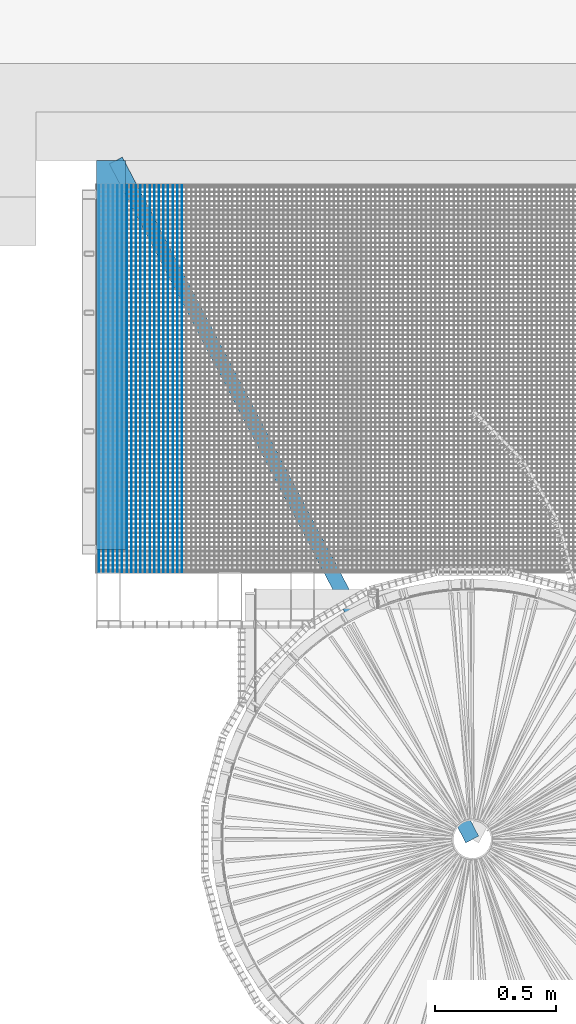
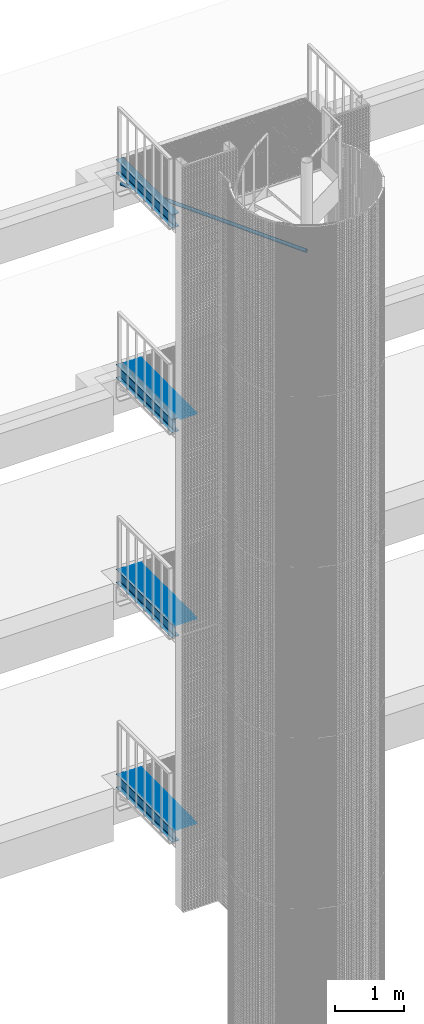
# One storey, part 91 of 1148: 58 beams, 8 elements without a shape of their own.
"""IFC2X3 building model written with IfcOpenShell, lengths in millimetres."""

from ifc_helpers import new_model, si_unit, frame, origin_with_axes, origin_2d_with_axis, place, context, subcontext, project, spatial, rectangle, hollow_circle, i_section, extrude, material, type_object, element, aggregate, save


model = new_model("IFC2X3")

# Units and contexts
model_context = context("Model", 3, precision=1e-05, world=origin_with_axes())
body_context = subcontext(model_context, "Body", "Model", "MODEL_VIEW")
ifc_project = project(units=[si_unit("LENGTHUNIT", "METRE", prefix="MILLI"), si_unit("AREAUNIT", "SQUARE_METRE"), si_unit("VOLUMEUNIT", "CUBIC_METRE"), si_unit("MASSUNIT", "GRAM", prefix="KILO"), si_unit("TIMEUNIT", "SECOND"), si_unit("PLANEANGLEUNIT", "RADIAN"), si_unit("SOLIDANGLEUNIT", "STERADIAN"), si_unit("THERMODYNAMICTEMPERATUREUNIT", "DEGREE_CELSIUS"), si_unit("LUMINOUSINTENSITYUNIT", "LUMEN")], contexts=[model_context])

# Site, building, storey
site_placement = place(None, origin_with_axes())
site = spatial("IfcSite", under=ifc_project, at=site_placement, Name="Undefined", CompositionType="ELEMENT")
building_placement = place(site_placement, origin_with_axes())
building = spatial("IfcBuilding", under=site, at=building_placement, Name="Undefined", CompositionType="ELEMENT")
storey_placement = place(building_placement, origin_with_axes())
storey = spatial("IfcBuildingStorey", under=building, at=storey_placement, Name="Undefined", CompositionType="ELEMENT", Elevation=0.0)

# Assembly, beams
assembly_1_placement = place(storey_placement, origin_with_axes())
assembly_1 = element("IfcElementAssembly", 1, at=assembly_1_placement, inside=storey, Name="BORDURE", AssemblyPlace="NOTDEFINED", PredefinedType="NOTDEFINED")
ifc_material_1 = material(Name="STEEL/S235JR")
beam_type_1 = type_object("IfcBeamType", Name="PL2*10", PredefinedType="NOTDEFINED")
beam_1_placement = place(assembly_1_placement, frame((20137.1154247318, 1101.99511814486, 13685.0), z_axis=(0.0, 0.0, 1.0), x_axis=(-4.50599999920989e-06, 0.999999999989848, 0.0)))
beam_1 = element("IfcBeam", 2, at=beam_1_placement, type_object=beam_type_1, material=ifc_material_1, Name="ENTRETOISE", context=body_context, shape_type="SweptSolid", body=[
    extrude(rectangle(XDim=2.0, YDim=10.0, at=origin_2d_with_axis()), frame((1596.0000000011, -1.35186458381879e-18, -7.27595761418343e-12), z_axis=(-1.0, 0.0, 0.0), x_axis=(0.0, -1.0, 0.0)), (0.0, 0.0, 1.0), 1596.0),
])
beam_2_placement = place(assembly_1_placement, frame((20156.1154247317, 1101.9952116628, 13685.0), z_axis=(0.0, 0.0, 1.0), x_axis=(-4.50599999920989e-06, 0.999999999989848, 0.0)))
beam_2 = element("IfcBeam", 3, at=beam_2_placement, type_object=beam_type_1, material=ifc_material_1, Name="ENTRETOISE", context=body_context, shape_type="SweptSolid", body=[
    extrude(rectangle(XDim=2.0, YDim=10.0, at=origin_2d_with_axis()), frame((1596.0000000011, -1.35186458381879e-18, -7.27595761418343e-12), z_axis=(-1.0, 0.0, 0.0), x_axis=(0.0, -1.0, 0.0)), (0.0, 0.0, 1.0), 1596.0),
])
beam_3_placement = place(assembly_1_placement, frame((20175.1154247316, 1101.99530518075, 13685.0), z_axis=(0.0, 0.0, 1.0), x_axis=(-4.50599999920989e-06, 0.999999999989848, 0.0)))
beam_3 = element("IfcBeam", 4, at=beam_3_placement, type_object=beam_type_1, material=ifc_material_1, Name="ENTRETOISE", context=body_context, shape_type="SweptSolid", body=[
    extrude(rectangle(XDim=2.0, YDim=10.0, at=origin_2d_with_axis()), frame((1596.0000000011, -1.35186458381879e-18, -7.27595761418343e-12), z_axis=(-1.0, 0.0, 0.0), x_axis=(0.0, -1.0, 0.0)), (0.0, 0.0, 1.0), 1596.0),
])
beam_4_placement = place(assembly_1_placement, frame((20194.1154247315, 1101.9953986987, 13685.0), z_axis=(0.0, 0.0, 1.0), x_axis=(-4.50599999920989e-06, 0.999999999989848, 0.0)))
beam_4 = element("IfcBeam", 5, at=beam_4_placement, type_object=beam_type_1, material=ifc_material_1, Name="ENTRETOISE", context=body_context, shape_type="SweptSolid", body=[
    extrude(rectangle(XDim=2.0, YDim=10.0, at=origin_2d_with_axis()), frame((1596.0000000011, -1.35186458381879e-18, -7.27595761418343e-12), z_axis=(-1.0, 0.0, 0.0), x_axis=(0.0, -1.0, 0.0)), (0.0, 0.0, 1.0), 1596.0),
])
beam_5_placement = place(assembly_1_placement, frame((20213.1154247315, 1101.99549221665, 13685.0), z_axis=(0.0, 0.0, 1.0), x_axis=(-4.50599999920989e-06, 0.999999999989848, 0.0)))
beam_5 = element("IfcBeam", 6, at=beam_5_placement, type_object=beam_type_1, material=ifc_material_1, Name="ENTRETOISE", context=body_context, shape_type="SweptSolid", body=[
    extrude(rectangle(XDim=2.0, YDim=10.0, at=origin_2d_with_axis()), frame((1596.0000000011, -1.35186458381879e-18, -7.27595761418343e-12), z_axis=(-1.0, 0.0, 0.0), x_axis=(0.0, -1.0, 0.0)), (0.0, 0.0, 1.0), 1596.0),
])
beam_6_placement = place(assembly_1_placement, frame((20232.1154247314, 1101.9955857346, 13685.0), z_axis=(0.0, 0.0, 1.0), x_axis=(-4.50599999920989e-06, 0.999999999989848, 0.0)))
beam_6 = element("IfcBeam", 7, at=beam_6_placement, type_object=beam_type_1, material=ifc_material_1, Name="ENTRETOISE", context=body_context, shape_type="SweptSolid", body=[
    extrude(rectangle(XDim=2.0, YDim=10.0, at=origin_2d_with_axis()), frame((1596.0000000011, -1.35186458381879e-18, -7.27595761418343e-12), z_axis=(-1.0, 0.0, 0.0), x_axis=(0.0, -1.0, 0.0)), (0.0, 0.0, 1.0), 1596.0),
])
beam_7_placement = place(assembly_1_placement, frame((20251.1154247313, 1101.99567925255, 13685.0), z_axis=(0.0, 0.0, 1.0), x_axis=(-4.50599999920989e-06, 0.999999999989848, 0.0)))
beam_7 = element("IfcBeam", 8, at=beam_7_placement, type_object=beam_type_1, material=ifc_material_1, Name="ENTRETOISE", context=body_context, shape_type="SweptSolid", body=[
    extrude(rectangle(XDim=2.0, YDim=10.0, at=origin_2d_with_axis()), frame((1596.0000000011, -1.35186458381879e-18, -7.27595761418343e-12), z_axis=(-1.0, 0.0, 0.0), x_axis=(0.0, -1.0, 0.0)), (0.0, 0.0, 1.0), 1596.0),
])
beam_8_placement = place(assembly_1_placement, frame((20270.1154247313, 1101.99577277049, 13685.0), z_axis=(0.0, 0.0, 1.0), x_axis=(-4.50599999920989e-06, 0.999999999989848, 0.0)))
beam_8 = element("IfcBeam", 9, at=beam_8_placement, type_object=beam_type_1, material=ifc_material_1, Name="ENTRETOISE", context=body_context, shape_type="SweptSolid", body=[
    extrude(rectangle(XDim=2.0, YDim=10.0, at=origin_2d_with_axis()), frame((1596.0000000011, -1.35186458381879e-18, -7.27595761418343e-12), z_axis=(-1.0, 0.0, 0.0), x_axis=(0.0, -1.0, 0.0)), (0.0, 0.0, 1.0), 1596.0),
])
beam_9_placement = place(assembly_1_placement, frame((20289.1154247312, 1101.99586628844, 13685.0), z_axis=(0.0, 0.0, 1.0), x_axis=(-4.50599999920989e-06, 0.999999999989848, 0.0)))
beam_9 = element("IfcBeam", 10, at=beam_9_placement, type_object=beam_type_1, material=ifc_material_1, Name="ENTRETOISE", context=body_context, shape_type="SweptSolid", body=[
    extrude(rectangle(XDim=2.0, YDim=10.0, at=origin_2d_with_axis()), frame((1596.0000000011, -1.35186458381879e-18, -7.27595761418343e-12), z_axis=(-1.0, 0.0, 0.0), x_axis=(0.0, -1.0, 0.0)), (0.0, 0.0, 1.0), 1596.0),
])
beam_10_placement = place(assembly_1_placement, frame((20308.1154247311, 1101.99595980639, 13685.0), z_axis=(0.0, 0.0, 1.0), x_axis=(-4.50599999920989e-06, 0.999999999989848, 0.0)))
beam_10 = element("IfcBeam", 11, at=beam_10_placement, type_object=beam_type_1, material=ifc_material_1, Name="ENTRETOISE", context=body_context, shape_type="SweptSolid", body=[
    extrude(rectangle(XDim=2.0, YDim=10.0, at=origin_2d_with_axis()), frame((1596.0000000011, -1.35186458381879e-18, -7.27595761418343e-12), z_axis=(-1.0, 0.0, 0.0), x_axis=(0.0, -1.0, 0.0)), (0.0, 0.0, 1.0), 1596.0),
])
beam_11_placement = place(assembly_1_placement, frame((20327.1154247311, 1101.99605332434, 13685.0), z_axis=(0.0, 0.0, 1.0), x_axis=(-4.50599999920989e-06, 0.999999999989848, 0.0)))
beam_11 = element("IfcBeam", 12, at=beam_11_placement, type_object=beam_type_1, material=ifc_material_1, Name="ENTRETOISE", context=body_context, shape_type="SweptSolid", body=[
    extrude(rectangle(XDim=2.0, YDim=10.0, at=origin_2d_with_axis()), frame((1596.0000000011, -1.35186458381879e-18, -7.27595761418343e-12), z_axis=(-1.0, 0.0, 0.0), x_axis=(0.0, -1.0, 0.0)), (0.0, 0.0, 1.0), 1596.0),
])
beam_12_placement = place(assembly_1_placement, frame((20346.115424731, 1101.99614684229, 13685.0), z_axis=(0.0, 0.0, 1.0), x_axis=(-4.50599999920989e-06, 0.999999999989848, 0.0)))
beam_12 = element("IfcBeam", 13, at=beam_12_placement, type_object=beam_type_1, material=ifc_material_1, Name="ENTRETOISE", context=body_context, shape_type="SweptSolid", body=[
    extrude(rectangle(XDim=2.0, YDim=10.0, at=origin_2d_with_axis()), frame((1596.0000000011, -1.35186458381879e-18, -7.27595761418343e-12), z_axis=(-1.0, 0.0, 0.0), x_axis=(0.0, -1.0, 0.0)), (0.0, 0.0, 1.0), 1596.0),
])
beam_13_placement = place(assembly_1_placement, frame((20365.1154247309, 1101.99624036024, 13685.0), z_axis=(0.0, 0.0, 1.0), x_axis=(-4.50599999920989e-06, 0.999999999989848, 0.0)))
beam_13 = element("IfcBeam", 14, at=beam_13_placement, type_object=beam_type_1, material=ifc_material_1, Name="ENTRETOISE", context=body_context, shape_type="SweptSolid", body=[
    extrude(rectangle(XDim=2.0, YDim=10.0, at=origin_2d_with_axis()), frame((1596.0000000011, -1.35186458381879e-18, -7.27595761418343e-12), z_axis=(-1.0, 0.0, 0.0), x_axis=(0.0, -1.0, 0.0)), (0.0, 0.0, 1.0), 1596.0),
])
beam_14_placement = place(assembly_1_placement, frame((20384.1154247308, 1101.99633387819, 13685.0), z_axis=(0.0, 0.0, 1.0), x_axis=(-4.50599999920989e-06, 0.999999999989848, 0.0)))
beam_14 = element("IfcBeam", 15, at=beam_14_placement, type_object=beam_type_1, material=ifc_material_1, Name="ENTRETOISE", context=body_context, shape_type="SweptSolid", body=[
    extrude(rectangle(XDim=2.0, YDim=10.0, at=origin_2d_with_axis()), frame((1596.0000000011, -1.35186458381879e-18, -7.27595761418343e-12), z_axis=(-1.0, 0.0, 0.0), x_axis=(0.0, -1.0, 0.0)), (0.0, 0.0, 1.0), 1596.0),
])
beam_15_placement = place(assembly_1_placement, frame((20403.1154247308, 1101.99642739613, 13685.0), z_axis=(0.0, 0.0, 1.0), x_axis=(-4.50599999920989e-06, 0.999999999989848, 0.0)))
beam_15 = element("IfcBeam", 16, at=beam_15_placement, type_object=beam_type_1, material=ifc_material_1, Name="ENTRETOISE", context=body_context, shape_type="SweptSolid", body=[
    extrude(rectangle(XDim=2.0, YDim=10.0, at=origin_2d_with_axis()), frame((1596.0000000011, -1.35186458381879e-18, -7.27595761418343e-12), z_axis=(-1.0, 0.0, 0.0), x_axis=(0.0, -1.0, 0.0)), (0.0, 0.0, 1.0), 1596.0),
])
aggregate(assembly_1, [beam_1, beam_2, beam_3, beam_4, beam_5, beam_6, beam_7, beam_8, beam_9, beam_10, beam_11, beam_12, beam_13, beam_14, beam_15])

assembly_2_placement = place(storey_placement, origin_with_axes())
assembly_2 = element("IfcElementAssembly", 17, at=assembly_2_placement, inside=storey, Name="BORDURE", AssemblyPlace="NOTDEFINED", PredefinedType="NOTDEFINED")
beam_16_placement = place(assembly_2_placement, frame((20061.115424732, 1101.99474407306, 10085.0), z_axis=(0.0, 0.0, 1.0), x_axis=(-4.50599999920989e-06, 0.999999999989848, 0.0)))
beam_16 = element("IfcBeam", 18, at=beam_16_placement, type_object=beam_type_1, material=ifc_material_1, Name="ENTRETOISE", context=body_context, shape_type="SweptSolid", body=[
    extrude(rectangle(XDim=2.0, YDim=10.0, at=origin_2d_with_axis()), frame((1596.0000000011, -1.35186458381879e-18, -7.27595761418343e-12), z_axis=(-1.0, 0.0, 0.0), x_axis=(0.0, -1.0, 0.0)), (0.0, 0.0, 1.0), 1596.0),
])
beam_17_placement = place(assembly_2_placement, frame((20080.115424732, 1101.99483759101, 10085.0), z_axis=(0.0, 0.0, 1.0), x_axis=(-4.50599999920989e-06, 0.999999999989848, 0.0)))
beam_17 = element("IfcBeam", 19, at=beam_17_placement, type_object=beam_type_1, material=ifc_material_1, Name="ENTRETOISE", context=body_context, shape_type="SweptSolid", body=[
    extrude(rectangle(XDim=2.0, YDim=10.0, at=origin_2d_with_axis()), frame((1596.0000000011, -1.35186458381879e-18, -7.27595761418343e-12), z_axis=(-1.0, 0.0, 0.0), x_axis=(0.0, -1.0, 0.0)), (0.0, 0.0, 1.0), 1596.0),
])
beam_18_placement = place(assembly_2_placement, frame((20099.1154247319, 1101.99493110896, 10085.0), z_axis=(0.0, 0.0, 1.0), x_axis=(-4.50599999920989e-06, 0.999999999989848, 0.0)))
beam_18 = element("IfcBeam", 20, at=beam_18_placement, type_object=beam_type_1, material=ifc_material_1, Name="ENTRETOISE", context=body_context, shape_type="SweptSolid", body=[
    extrude(rectangle(XDim=2.0, YDim=10.0, at=origin_2d_with_axis()), frame((1596.0000000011, -1.35186458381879e-18, -7.27595761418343e-12), z_axis=(-1.0, 0.0, 0.0), x_axis=(0.0, -1.0, 0.0)), (0.0, 0.0, 1.0), 1596.0),
])
beam_19_placement = place(assembly_2_placement, frame((20118.1154247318, 1101.99502462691, 10085.0), z_axis=(0.0, 0.0, 1.0), x_axis=(-4.50599999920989e-06, 0.999999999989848, 0.0)))
beam_19 = element("IfcBeam", 21, at=beam_19_placement, type_object=beam_type_1, material=ifc_material_1, Name="ENTRETOISE", context=body_context, shape_type="SweptSolid", body=[
    extrude(rectangle(XDim=2.0, YDim=10.0, at=origin_2d_with_axis()), frame((1596.0000000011, -1.35186458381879e-18, -7.27595761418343e-12), z_axis=(-1.0, 0.0, 0.0), x_axis=(0.0, -1.0, 0.0)), (0.0, 0.0, 1.0), 1596.0),
])
beam_20_placement = place(assembly_2_placement, frame((20137.1154247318, 1101.99511814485, 10085.0), z_axis=(0.0, 0.0, 1.0), x_axis=(-4.50599999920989e-06, 0.999999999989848, 0.0)))
beam_20 = element("IfcBeam", 22, at=beam_20_placement, type_object=beam_type_1, material=ifc_material_1, Name="ENTRETOISE", context=body_context, shape_type="SweptSolid", body=[
    extrude(rectangle(XDim=2.0, YDim=10.0, at=origin_2d_with_axis()), frame((1596.0000000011, -1.35186458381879e-18, -7.27595761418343e-12), z_axis=(-1.0, 0.0, 0.0), x_axis=(0.0, -1.0, 0.0)), (0.0, 0.0, 1.0), 1596.0),
])
beam_21_placement = place(assembly_2_placement, frame((20156.1154247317, 1101.9952116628, 10085.0), z_axis=(0.0, 0.0, 1.0), x_axis=(-4.50599999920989e-06, 0.999999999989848, 0.0)))
beam_21 = element("IfcBeam", 23, at=beam_21_placement, type_object=beam_type_1, material=ifc_material_1, Name="ENTRETOISE", context=body_context, shape_type="SweptSolid", body=[
    extrude(rectangle(XDim=2.0, YDim=10.0, at=origin_2d_with_axis()), frame((1596.0000000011, -1.35186458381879e-18, -7.27595761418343e-12), z_axis=(-1.0, 0.0, 0.0), x_axis=(0.0, -1.0, 0.0)), (0.0, 0.0, 1.0), 1596.0),
])
beam_22_placement = place(assembly_2_placement, frame((20175.1154247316, 1101.99530518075, 10085.0), z_axis=(0.0, 0.0, 1.0), x_axis=(-4.50599999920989e-06, 0.999999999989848, 0.0)))
beam_22 = element("IfcBeam", 24, at=beam_22_placement, type_object=beam_type_1, material=ifc_material_1, Name="ENTRETOISE", context=body_context, shape_type="SweptSolid", body=[
    extrude(rectangle(XDim=2.0, YDim=10.0, at=origin_2d_with_axis()), frame((1596.0000000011, -1.35186458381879e-18, -7.27595761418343e-12), z_axis=(-1.0, 0.0, 0.0), x_axis=(0.0, -1.0, 0.0)), (0.0, 0.0, 1.0), 1596.0),
])
beam_23_placement = place(assembly_2_placement, frame((20194.1154247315, 1101.9953986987, 10085.0), z_axis=(0.0, 0.0, 1.0), x_axis=(-4.50599999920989e-06, 0.999999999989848, 0.0)))
beam_23 = element("IfcBeam", 25, at=beam_23_placement, type_object=beam_type_1, material=ifc_material_1, Name="ENTRETOISE", context=body_context, shape_type="SweptSolid", body=[
    extrude(rectangle(XDim=2.0, YDim=10.0, at=origin_2d_with_axis()), frame((1596.0000000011, -1.35186458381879e-18, -7.27595761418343e-12), z_axis=(-1.0, 0.0, 0.0), x_axis=(0.0, -1.0, 0.0)), (0.0, 0.0, 1.0), 1596.0),
])
beam_24_placement = place(assembly_2_placement, frame((20213.1154247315, 1101.99549221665, 10085.0), z_axis=(0.0, 0.0, 1.0), x_axis=(-4.50599999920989e-06, 0.999999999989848, 0.0)))
beam_24 = element("IfcBeam", 26, at=beam_24_placement, type_object=beam_type_1, material=ifc_material_1, Name="ENTRETOISE", context=body_context, shape_type="SweptSolid", body=[
    extrude(rectangle(XDim=2.0, YDim=10.0, at=origin_2d_with_axis()), frame((1596.0000000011, -1.35186458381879e-18, -7.27595761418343e-12), z_axis=(-1.0, 0.0, 0.0), x_axis=(0.0, -1.0, 0.0)), (0.0, 0.0, 1.0), 1596.0),
])
beam_25_placement = place(assembly_2_placement, frame((20232.1154247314, 1101.9955857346, 10085.0), z_axis=(0.0, 0.0, 1.0), x_axis=(-4.50599999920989e-06, 0.999999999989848, 0.0)))
beam_25 = element("IfcBeam", 27, at=beam_25_placement, type_object=beam_type_1, material=ifc_material_1, Name="ENTRETOISE", context=body_context, shape_type="SweptSolid", body=[
    extrude(rectangle(XDim=2.0, YDim=10.0, at=origin_2d_with_axis()), frame((1596.0000000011, -1.35186458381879e-18, -7.27595761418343e-12), z_axis=(-1.0, 0.0, 0.0), x_axis=(0.0, -1.0, 0.0)), (0.0, 0.0, 1.0), 1596.0),
])
beam_26_placement = place(assembly_2_placement, frame((20251.1154247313, 1101.99567925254, 10085.0), z_axis=(0.0, 0.0, 1.0), x_axis=(-4.50599999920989e-06, 0.999999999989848, 0.0)))
beam_26 = element("IfcBeam", 28, at=beam_26_placement, type_object=beam_type_1, material=ifc_material_1, Name="ENTRETOISE", context=body_context, shape_type="SweptSolid", body=[
    extrude(rectangle(XDim=2.0, YDim=10.0, at=origin_2d_with_axis()), frame((1596.0000000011, -1.35186458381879e-18, -7.27595761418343e-12), z_axis=(-1.0, 0.0, 0.0), x_axis=(0.0, -1.0, 0.0)), (0.0, 0.0, 1.0), 1596.0),
])
beam_27_placement = place(assembly_2_placement, frame((20270.1154247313, 1101.99577277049, 10085.0), z_axis=(0.0, 0.0, 1.0), x_axis=(-4.50599999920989e-06, 0.999999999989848, 0.0)))
beam_27 = element("IfcBeam", 29, at=beam_27_placement, type_object=beam_type_1, material=ifc_material_1, Name="ENTRETOISE", context=body_context, shape_type="SweptSolid", body=[
    extrude(rectangle(XDim=2.0, YDim=10.0, at=origin_2d_with_axis()), frame((1596.0000000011, -1.35186458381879e-18, -7.27595761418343e-12), z_axis=(-1.0, 0.0, 0.0), x_axis=(0.0, -1.0, 0.0)), (0.0, 0.0, 1.0), 1596.0),
])
beam_28_placement = place(assembly_2_placement, frame((20289.1154247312, 1101.99586628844, 10085.0), z_axis=(0.0, 0.0, 1.0), x_axis=(-4.50599999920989e-06, 0.999999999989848, 0.0)))
beam_28 = element("IfcBeam", 30, at=beam_28_placement, type_object=beam_type_1, material=ifc_material_1, Name="ENTRETOISE", context=body_context, shape_type="SweptSolid", body=[
    extrude(rectangle(XDim=2.0, YDim=10.0, at=origin_2d_with_axis()), frame((1596.0000000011, -1.35186458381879e-18, -7.27595761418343e-12), z_axis=(-1.0, 0.0, 0.0), x_axis=(0.0, -1.0, 0.0)), (0.0, 0.0, 1.0), 1596.0),
])
beam_29_placement = place(assembly_2_placement, frame((20308.1154247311, 1101.99595980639, 10085.0), z_axis=(0.0, 0.0, 1.0), x_axis=(-4.50599999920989e-06, 0.999999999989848, 0.0)))
beam_29 = element("IfcBeam", 31, at=beam_29_placement, type_object=beam_type_1, material=ifc_material_1, Name="ENTRETOISE", context=body_context, shape_type="SweptSolid", body=[
    extrude(rectangle(XDim=2.0, YDim=10.0, at=origin_2d_with_axis()), frame((1596.0000000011, -1.35186458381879e-18, -7.27595761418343e-12), z_axis=(-1.0, 0.0, 0.0), x_axis=(0.0, -1.0, 0.0)), (0.0, 0.0, 1.0), 1596.0),
])
beam_30_placement = place(assembly_2_placement, frame((20327.115424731, 1101.99605332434, 10085.0), z_axis=(0.0, 0.0, 1.0), x_axis=(-4.50599999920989e-06, 0.999999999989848, 0.0)))
beam_30 = element("IfcBeam", 32, at=beam_30_placement, type_object=beam_type_1, material=ifc_material_1, Name="ENTRETOISE", context=body_context, shape_type="SweptSolid", body=[
    extrude(rectangle(XDim=2.0, YDim=10.0, at=origin_2d_with_axis()), frame((1596.0000000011, -1.35186458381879e-18, -7.27595761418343e-12), z_axis=(-1.0, 0.0, 0.0), x_axis=(0.0, -1.0, 0.0)), (0.0, 0.0, 1.0), 1596.0),
])
beam_31_placement = place(assembly_2_placement, frame((20346.115424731, 1101.99614684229, 10085.0), z_axis=(0.0, 0.0, 1.0), x_axis=(-4.50599999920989e-06, 0.999999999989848, 0.0)))
beam_31 = element("IfcBeam", 33, at=beam_31_placement, type_object=beam_type_1, material=ifc_material_1, Name="ENTRETOISE", context=body_context, shape_type="SweptSolid", body=[
    extrude(rectangle(XDim=2.0, YDim=10.0, at=origin_2d_with_axis()), frame((1596.0000000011, -1.35186458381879e-18, -7.27595761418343e-12), z_axis=(-1.0, 0.0, 0.0), x_axis=(0.0, -1.0, 0.0)), (0.0, 0.0, 1.0), 1596.0),
])
beam_32_placement = place(assembly_2_placement, frame((20365.1154247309, 1101.99624036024, 10085.0), z_axis=(0.0, 0.0, 1.0), x_axis=(-4.50599999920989e-06, 0.999999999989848, 0.0)))
beam_32 = element("IfcBeam", 34, at=beam_32_placement, type_object=beam_type_1, material=ifc_material_1, Name="ENTRETOISE", context=body_context, shape_type="SweptSolid", body=[
    extrude(rectangle(XDim=2.0, YDim=10.0, at=origin_2d_with_axis()), frame((1596.0000000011, -1.35186458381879e-18, -7.27595761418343e-12), z_axis=(-1.0, 0.0, 0.0), x_axis=(0.0, -1.0, 0.0)), (0.0, 0.0, 1.0), 1596.0),
])
beam_33_placement = place(assembly_2_placement, frame((20384.1154247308, 1101.99633387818, 10085.0), z_axis=(0.0, 0.0, 1.0), x_axis=(-4.50599999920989e-06, 0.999999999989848, 0.0)))
beam_33 = element("IfcBeam", 35, at=beam_33_placement, type_object=beam_type_1, material=ifc_material_1, Name="ENTRETOISE", context=body_context, shape_type="SweptSolid", body=[
    extrude(rectangle(XDim=2.0, YDim=10.0, at=origin_2d_with_axis()), frame((1596.0000000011, -1.35186458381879e-18, -7.27595761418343e-12), z_axis=(-1.0, 0.0, 0.0), x_axis=(0.0, -1.0, 0.0)), (0.0, 0.0, 1.0), 1596.0),
])
beam_34_placement = place(assembly_2_placement, frame((20403.1154247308, 1101.99642739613, 10085.0), z_axis=(0.0, 0.0, 1.0), x_axis=(-4.50599999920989e-06, 0.999999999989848, 0.0)))
beam_34 = element("IfcBeam", 36, at=beam_34_placement, type_object=beam_type_1, material=ifc_material_1, Name="ENTRETOISE", context=body_context, shape_type="SweptSolid", body=[
    extrude(rectangle(XDim=2.0, YDim=10.0, at=origin_2d_with_axis()), frame((1596.0000000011, -1.35186458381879e-18, -7.27595761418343e-12), z_axis=(-1.0, 0.0, 0.0), x_axis=(0.0, -1.0, 0.0)), (0.0, 0.0, 1.0), 1596.0),
])
aggregate(assembly_2, [beam_16, beam_17, beam_18, beam_19, beam_20, beam_21, beam_22, beam_23, beam_24, beam_25, beam_26, beam_27, beam_28, beam_29, beam_30, beam_31, beam_32, beam_33, beam_34])

assembly_3_placement = place(storey_placement, origin_with_axes())
assembly_3 = element("IfcElementAssembly", 37, at=assembly_3_placement, inside=storey, Name="BORDURE", AssemblyPlace="NOTDEFINED", PredefinedType="NOTDEFINED")
beam_35_placement = place(assembly_3_placement, frame((20061.115424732, 1101.99474407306, 6485.0), z_axis=(0.0, 0.0, 1.0), x_axis=(-4.50599999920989e-06, 0.999999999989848, 0.0)))
beam_35 = element("IfcBeam", 38, at=beam_35_placement, type_object=beam_type_1, material=ifc_material_1, Name="ENTRETOISE", context=body_context, shape_type="SweptSolid", body=[
    extrude(rectangle(XDim=2.0, YDim=10.0, at=origin_2d_with_axis()), frame((1596.0000000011, -1.35186458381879e-18, -7.27595761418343e-12), z_axis=(-1.0, 0.0, 0.0), x_axis=(0.0, -1.0, 0.0)), (0.0, 0.0, 1.0), 1596.0),
])
beam_36_placement = place(assembly_3_placement, frame((20080.115424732, 1101.99483759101, 6485.0), z_axis=(0.0, 0.0, 1.0), x_axis=(-4.50599999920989e-06, 0.999999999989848, 0.0)))
beam_36 = element("IfcBeam", 39, at=beam_36_placement, type_object=beam_type_1, material=ifc_material_1, Name="ENTRETOISE", context=body_context, shape_type="SweptSolid", body=[
    extrude(rectangle(XDim=2.0, YDim=10.0, at=origin_2d_with_axis()), frame((1596.0000000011, -1.35186458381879e-18, -7.27595761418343e-12), z_axis=(-1.0, 0.0, 0.0), x_axis=(0.0, -1.0, 0.0)), (0.0, 0.0, 1.0), 1596.0),
])
beam_37_placement = place(assembly_3_placement, frame((20099.1154247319, 1101.99493110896, 6485.0), z_axis=(0.0, 0.0, 1.0), x_axis=(-4.50599999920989e-06, 0.999999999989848, 0.0)))
beam_37 = element("IfcBeam", 40, at=beam_37_placement, type_object=beam_type_1, material=ifc_material_1, Name="ENTRETOISE", context=body_context, shape_type="SweptSolid", body=[
    extrude(rectangle(XDim=2.0, YDim=10.0, at=origin_2d_with_axis()), frame((1596.0000000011, -1.35186458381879e-18, -7.27595761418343e-12), z_axis=(-1.0, 0.0, 0.0), x_axis=(0.0, -1.0, 0.0)), (0.0, 0.0, 1.0), 1596.0),
])
beam_38_placement = place(assembly_3_placement, frame((20118.1154247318, 1101.99502462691, 6485.0), z_axis=(0.0, 0.0, 1.0), x_axis=(-4.50599999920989e-06, 0.999999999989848, 0.0)))
beam_38 = element("IfcBeam", 41, at=beam_38_placement, type_object=beam_type_1, material=ifc_material_1, Name="ENTRETOISE", context=body_context, shape_type="SweptSolid", body=[
    extrude(rectangle(XDim=2.0, YDim=10.0, at=origin_2d_with_axis()), frame((1596.0000000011, -1.35186458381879e-18, -7.27595761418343e-12), z_axis=(-1.0, 0.0, 0.0), x_axis=(0.0, -1.0, 0.0)), (0.0, 0.0, 1.0), 1596.0),
])
beam_39_placement = place(assembly_3_placement, frame((20137.1154247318, 1101.99511814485, 6485.0), z_axis=(0.0, 0.0, 1.0), x_axis=(-4.50599999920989e-06, 0.999999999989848, 0.0)))
beam_39 = element("IfcBeam", 42, at=beam_39_placement, type_object=beam_type_1, material=ifc_material_1, Name="ENTRETOISE", context=body_context, shape_type="SweptSolid", body=[
    extrude(rectangle(XDim=2.0, YDim=10.0, at=origin_2d_with_axis()), frame((1596.0000000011, -1.35186458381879e-18, -7.27595761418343e-12), z_axis=(-1.0, 0.0, 0.0), x_axis=(0.0, -1.0, 0.0)), (0.0, 0.0, 1.0), 1596.0),
])
beam_40_placement = place(assembly_3_placement, frame((20156.1154247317, 1101.9952116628, 6485.0), z_axis=(0.0, 0.0, 1.0), x_axis=(-4.50599999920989e-06, 0.999999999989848, 0.0)))
beam_40 = element("IfcBeam", 43, at=beam_40_placement, type_object=beam_type_1, material=ifc_material_1, Name="ENTRETOISE", context=body_context, shape_type="SweptSolid", body=[
    extrude(rectangle(XDim=2.0, YDim=10.0, at=origin_2d_with_axis()), frame((1596.0000000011, -1.35186458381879e-18, -7.27595761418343e-12), z_axis=(-1.0, 0.0, 0.0), x_axis=(0.0, -1.0, 0.0)), (0.0, 0.0, 1.0), 1596.0),
])
beam_41_placement = place(assembly_3_placement, frame((20175.1154247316, 1101.99530518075, 6485.0), z_axis=(0.0, 0.0, 1.0), x_axis=(-4.50599999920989e-06, 0.999999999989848, 0.0)))
beam_41 = element("IfcBeam", 44, at=beam_41_placement, type_object=beam_type_1, material=ifc_material_1, Name="ENTRETOISE", context=body_context, shape_type="SweptSolid", body=[
    extrude(rectangle(XDim=2.0, YDim=10.0, at=origin_2d_with_axis()), frame((1596.0000000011, -1.35186458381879e-18, -7.27595761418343e-12), z_axis=(-1.0, 0.0, 0.0), x_axis=(0.0, -1.0, 0.0)), (0.0, 0.0, 1.0), 1596.0),
])
beam_42_placement = place(assembly_3_placement, frame((20194.1154247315, 1101.9953986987, 6485.0), z_axis=(0.0, 0.0, 1.0), x_axis=(-4.50599999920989e-06, 0.999999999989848, 0.0)))
beam_42 = element("IfcBeam", 45, at=beam_42_placement, type_object=beam_type_1, material=ifc_material_1, Name="ENTRETOISE", context=body_context, shape_type="SweptSolid", body=[
    extrude(rectangle(XDim=2.0, YDim=10.0, at=origin_2d_with_axis()), frame((1596.0000000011, -1.35186458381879e-18, -7.27595761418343e-12), z_axis=(-1.0, 0.0, 0.0), x_axis=(0.0, -1.0, 0.0)), (0.0, 0.0, 1.0), 1596.0),
])
beam_43_placement = place(assembly_3_placement, frame((20213.1154247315, 1101.99549221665, 6485.0), z_axis=(0.0, 0.0, 1.0), x_axis=(-4.50599999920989e-06, 0.999999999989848, 0.0)))
beam_43 = element("IfcBeam", 46, at=beam_43_placement, type_object=beam_type_1, material=ifc_material_1, Name="ENTRETOISE", context=body_context, shape_type="SweptSolid", body=[
    extrude(rectangle(XDim=2.0, YDim=10.0, at=origin_2d_with_axis()), frame((1596.0000000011, -1.35186458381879e-18, -7.27595761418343e-12), z_axis=(-1.0, 0.0, 0.0), x_axis=(0.0, -1.0, 0.0)), (0.0, 0.0, 1.0), 1596.0),
])
beam_44_placement = place(assembly_3_placement, frame((20232.1154247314, 1101.9955857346, 6485.0), z_axis=(0.0, 0.0, 1.0), x_axis=(-4.50599999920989e-06, 0.999999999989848, 0.0)))
beam_44 = element("IfcBeam", 47, at=beam_44_placement, type_object=beam_type_1, material=ifc_material_1, Name="ENTRETOISE", context=body_context, shape_type="SweptSolid", body=[
    extrude(rectangle(XDim=2.0, YDim=10.0, at=origin_2d_with_axis()), frame((1596.0000000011, -1.35186458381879e-18, -7.27595761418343e-12), z_axis=(-1.0, 0.0, 0.0), x_axis=(0.0, -1.0, 0.0)), (0.0, 0.0, 1.0), 1596.0),
])
beam_45_placement = place(assembly_3_placement, frame((20251.1154247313, 1101.99567925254, 6485.0), z_axis=(0.0, 0.0, 1.0), x_axis=(-4.50599999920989e-06, 0.999999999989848, 0.0)))
beam_45 = element("IfcBeam", 48, at=beam_45_placement, type_object=beam_type_1, material=ifc_material_1, Name="ENTRETOISE", context=body_context, shape_type="SweptSolid", body=[
    extrude(rectangle(XDim=2.0, YDim=10.0, at=origin_2d_with_axis()), frame((1596.0000000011, -1.35186458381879e-18, -7.27595761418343e-12), z_axis=(-1.0, 0.0, 0.0), x_axis=(0.0, -1.0, 0.0)), (0.0, 0.0, 1.0), 1596.0),
])
beam_46_placement = place(assembly_3_placement, frame((20270.1154247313, 1101.99577277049, 6485.0), z_axis=(0.0, 0.0, 1.0), x_axis=(-4.50599999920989e-06, 0.999999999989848, 0.0)))
beam_46 = element("IfcBeam", 49, at=beam_46_placement, type_object=beam_type_1, material=ifc_material_1, Name="ENTRETOISE", context=body_context, shape_type="SweptSolid", body=[
    extrude(rectangle(XDim=2.0, YDim=10.0, at=origin_2d_with_axis()), frame((1596.0000000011, -1.35186458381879e-18, -7.27595761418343e-12), z_axis=(-1.0, 0.0, 0.0), x_axis=(0.0, -1.0, 0.0)), (0.0, 0.0, 1.0), 1596.0),
])
beam_47_placement = place(assembly_3_placement, frame((20289.1154247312, 1101.99586628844, 6485.0), z_axis=(0.0, 0.0, 1.0), x_axis=(-4.50599999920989e-06, 0.999999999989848, 0.0)))
beam_47 = element("IfcBeam", 50, at=beam_47_placement, type_object=beam_type_1, material=ifc_material_1, Name="ENTRETOISE", context=body_context, shape_type="SweptSolid", body=[
    extrude(rectangle(XDim=2.0, YDim=10.0, at=origin_2d_with_axis()), frame((1596.0000000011, -1.35186458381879e-18, -7.27595761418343e-12), z_axis=(-1.0, 0.0, 0.0), x_axis=(0.0, -1.0, 0.0)), (0.0, 0.0, 1.0), 1596.0),
])
beam_48_placement = place(assembly_3_placement, frame((20308.1154247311, 1101.99595980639, 6485.0), z_axis=(0.0, 0.0, 1.0), x_axis=(-4.50599999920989e-06, 0.999999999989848, 0.0)))
beam_48 = element("IfcBeam", 51, at=beam_48_placement, type_object=beam_type_1, material=ifc_material_1, Name="ENTRETOISE", context=body_context, shape_type="SweptSolid", body=[
    extrude(rectangle(XDim=2.0, YDim=10.0, at=origin_2d_with_axis()), frame((1596.0000000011, -1.35186458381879e-18, -7.27595761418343e-12), z_axis=(-1.0, 0.0, 0.0), x_axis=(0.0, -1.0, 0.0)), (0.0, 0.0, 1.0), 1596.0),
])
beam_49_placement = place(assembly_3_placement, frame((20327.1154247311, 1101.99605332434, 6485.0), z_axis=(0.0, 0.0, 1.0), x_axis=(-4.50599999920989e-06, 0.999999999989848, 0.0)))
beam_49 = element("IfcBeam", 52, at=beam_49_placement, type_object=beam_type_1, material=ifc_material_1, Name="ENTRETOISE", context=body_context, shape_type="SweptSolid", body=[
    extrude(rectangle(XDim=2.0, YDim=10.0, at=origin_2d_with_axis()), frame((1596.0000000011, -1.35186458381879e-18, -7.27595761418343e-12), z_axis=(-1.0, 0.0, 0.0), x_axis=(0.0, -1.0, 0.0)), (0.0, 0.0, 1.0), 1596.0),
])
beam_50_placement = place(assembly_3_placement, frame((20346.115424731, 1101.99614684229, 6485.0), z_axis=(0.0, 0.0, 1.0), x_axis=(-4.50599999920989e-06, 0.999999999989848, 0.0)))
beam_50 = element("IfcBeam", 53, at=beam_50_placement, type_object=beam_type_1, material=ifc_material_1, Name="ENTRETOISE", context=body_context, shape_type="SweptSolid", body=[
    extrude(rectangle(XDim=2.0, YDim=10.0, at=origin_2d_with_axis()), frame((1596.0000000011, -1.35186458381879e-18, -7.27595761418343e-12), z_axis=(-1.0, 0.0, 0.0), x_axis=(0.0, -1.0, 0.0)), (0.0, 0.0, 1.0), 1596.0),
])
beam_51_placement = place(assembly_3_placement, frame((20365.1154247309, 1101.99624036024, 6485.0), z_axis=(0.0, 0.0, 1.0), x_axis=(-4.50599999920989e-06, 0.999999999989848, 0.0)))
beam_51 = element("IfcBeam", 54, at=beam_51_placement, type_object=beam_type_1, material=ifc_material_1, Name="ENTRETOISE", context=body_context, shape_type="SweptSolid", body=[
    extrude(rectangle(XDim=2.0, YDim=10.0, at=origin_2d_with_axis()), frame((1596.0000000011, -1.35186458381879e-18, -7.27595761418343e-12), z_axis=(-1.0, 0.0, 0.0), x_axis=(0.0, -1.0, 0.0)), (0.0, 0.0, 1.0), 1596.0),
])
beam_52_placement = place(assembly_3_placement, frame((20384.1154247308, 1101.99633387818, 6485.0), z_axis=(0.0, 0.0, 1.0), x_axis=(-4.50599999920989e-06, 0.999999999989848, 0.0)))
beam_52 = element("IfcBeam", 55, at=beam_52_placement, type_object=beam_type_1, material=ifc_material_1, Name="ENTRETOISE", context=body_context, shape_type="SweptSolid", body=[
    extrude(rectangle(XDim=2.0, YDim=10.0, at=origin_2d_with_axis()), frame((1596.0000000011, -1.35186458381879e-18, -7.27595761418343e-12), z_axis=(-1.0, 0.0, 0.0), x_axis=(0.0, -1.0, 0.0)), (0.0, 0.0, 1.0), 1596.0),
])
beam_53_placement = place(assembly_3_placement, frame((20403.1154247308, 1101.99642739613, 6485.0), z_axis=(0.0, 0.0, 1.0), x_axis=(-4.50599999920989e-06, 0.999999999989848, 0.0)))
beam_53 = element("IfcBeam", 56, at=beam_53_placement, type_object=beam_type_1, material=ifc_material_1, Name="ENTRETOISE", context=body_context, shape_type="SweptSolid", body=[
    extrude(rectangle(XDim=2.0, YDim=10.0, at=origin_2d_with_axis()), frame((1596.0000000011, -1.35186458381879e-18, -7.27595761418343e-12), z_axis=(-1.0, 0.0, 0.0), x_axis=(0.0, -1.0, 0.0)), (0.0, 0.0, 1.0), 1596.0),
])
aggregate(assembly_3, [beam_35, beam_36, beam_37, beam_38, beam_39, beam_40, beam_41, beam_42, beam_43, beam_44, beam_45, beam_46, beam_47, beam_48, beam_49, beam_50, beam_51, beam_52, beam_53])

# Assembly, beam
assembly_4_placement = place(storey_placement, origin_with_axes())
assembly_4 = element("IfcElementAssembly", 57, at=assembly_4_placement, inside=storey, AssemblyPlace="NOTDEFINED", PredefinedType="NOTDEFINED")
ifc_material_2 = material(Name="STEEL/S275JR")
beam_type_2 = type_object("IfcBeamType", Name="TUBE-60.3*5", PredefinedType="NOTDEFINED")
beam_54_placement = place(assembly_4_placement, frame((21600.0399999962, -0.239999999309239, 16790.0), z_axis=(0.0, 0.0, 1.0), x_axis=(-0.464816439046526, 0.885407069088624, 0.0)))
beam_54 = element("IfcBeam", 58, at=beam_54_placement, type_object=beam_type_2, material=ifc_material_2, Name="BUTON", context=body_context, shape_type="SweptSolid", body=[
    extrude(hollow_circle(Radius=30.14999962, WallThickness=5.0, at=origin_2d_with_axis()), frame((3162.38211154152, 0.0, 0.0), z_axis=(-1.0, 0.0, 0.0), x_axis=(0.0, -1.0, 0.0)), (0.0, 0.0, 1.0), 3162.38),
])
aggregate(assembly_4, [beam_54])

assembly_5_placement = place(storey_placement, origin_with_axes())
assembly_5 = element("IfcElementAssembly", 59, at=assembly_5_placement, inside=storey, AssemblyPlace="NOTDEFINED", PredefinedType="NOTDEFINED")
beam_type_3 = type_object("IfcBeamType", Name="IPE240", PredefinedType="NOTDEFINED")
beam_55_placement = place(assembly_5_placement, frame((20110.1195898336, 1194.99494343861, 17120.0), z_axis=(0.0, 0.0, 1.0), x_axis=(-4.50599999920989e-06, 0.999999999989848, 0.0)))
beam_55 = element("IfcBeam", 60, at=beam_55_placement, type_object=beam_type_3, material=ifc_material_1, Name="EXISTANTS", context=body_context, shape_type="SweptSolid", body=[
    extrude(i_section(OverallWidth=120.0, OverallDepth=240.0, WebThickness=6.199999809, FlangeThickness=9.800000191, FilletRadius=15.0, at=origin_2d_with_axis()), frame((1605.0004478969, 0.0, 3.63797880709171e-12), z_axis=(-1.0, 0.0, 0.0), x_axis=(0.0, -1.0, 0.0)), (0.0, 0.0, 1.0), 1605.0),
])
aggregate(assembly_5, [beam_55])

assembly_6_placement = place(storey_placement, origin_with_axes())
assembly_6 = element("IfcElementAssembly", 61, at=assembly_6_placement, inside=storey, AssemblyPlace="NOTDEFINED", PredefinedType="NOTDEFINED")
beam_56_placement = place(assembly_6_placement, frame((20110.1195898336, 1194.99494343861, 13520.0), z_axis=(0.0, 0.0, 1.0), x_axis=(-4.50599999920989e-06, 0.999999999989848, 0.0)))
beam_56 = element("IfcBeam", 62, at=beam_56_placement, type_object=beam_type_3, material=ifc_material_1, Name="EXISTANTS", context=body_context, shape_type="SweptSolid", body=[
    extrude(i_section(OverallWidth=120.0, OverallDepth=240.0, WebThickness=6.199999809, FlangeThickness=9.800000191, FilletRadius=15.0, at=origin_2d_with_axis()), frame((1605.0004478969, 0.0, 3.63797880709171e-12), z_axis=(-1.0, 0.0, 0.0), x_axis=(0.0, -1.0, 0.0)), (0.0, 0.0, 1.0), 1605.0),
])
aggregate(assembly_6, [beam_56])

assembly_7_placement = place(storey_placement, origin_with_axes())
assembly_7 = element("IfcElementAssembly", 63, at=assembly_7_placement, inside=storey, AssemblyPlace="NOTDEFINED", PredefinedType="NOTDEFINED")
beam_57_placement = place(assembly_7_placement, frame((20110.1195898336, 1194.99494343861, 9920.0), z_axis=(0.0, 0.0, 1.0), x_axis=(-4.50599999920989e-06, 0.999999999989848, 0.0)))
beam_57 = element("IfcBeam", 64, at=beam_57_placement, type_object=beam_type_3, material=ifc_material_1, Name="EXISTANTS", context=body_context, shape_type="SweptSolid", body=[
    extrude(i_section(OverallWidth=120.0, OverallDepth=240.0, WebThickness=6.199999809, FlangeThickness=9.800000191, FilletRadius=15.0, at=origin_2d_with_axis()), frame((1605.0004478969, 0.0, 3.63797880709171e-12), z_axis=(-1.0, 0.0, 0.0), x_axis=(0.0, -1.0, 0.0)), (0.0, 0.0, 1.0), 1605.0),
])
aggregate(assembly_7, [beam_57])

assembly_8_placement = place(storey_placement, origin_with_axes())
assembly_8 = element("IfcElementAssembly", 65, at=assembly_8_placement, inside=storey, AssemblyPlace="NOTDEFINED", PredefinedType="NOTDEFINED")
beam_58_placement = place(assembly_8_placement, frame((20110.1195898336, 1194.99494343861, 6320.0), z_axis=(0.0, 0.0, 1.0), x_axis=(-4.50599999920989e-06, 0.999999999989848, 0.0)))
beam_58 = element("IfcBeam", 66, at=beam_58_placement, type_object=beam_type_3, material=ifc_material_1, Name="EXISTANTS", context=body_context, shape_type="SweptSolid", body=[
    extrude(i_section(OverallWidth=120.0, OverallDepth=240.0, WebThickness=6.199999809, FlangeThickness=9.800000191, FilletRadius=15.0, at=origin_2d_with_axis()), frame((1605.0004478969, 0.0, 3.63797880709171e-12), z_axis=(-1.0, 0.0, 0.0), x_axis=(0.0, -1.0, 0.0)), (0.0, 0.0, 1.0), 1605.0),
])
aggregate(assembly_8, [beam_58])

save(model, "model.ifc")
